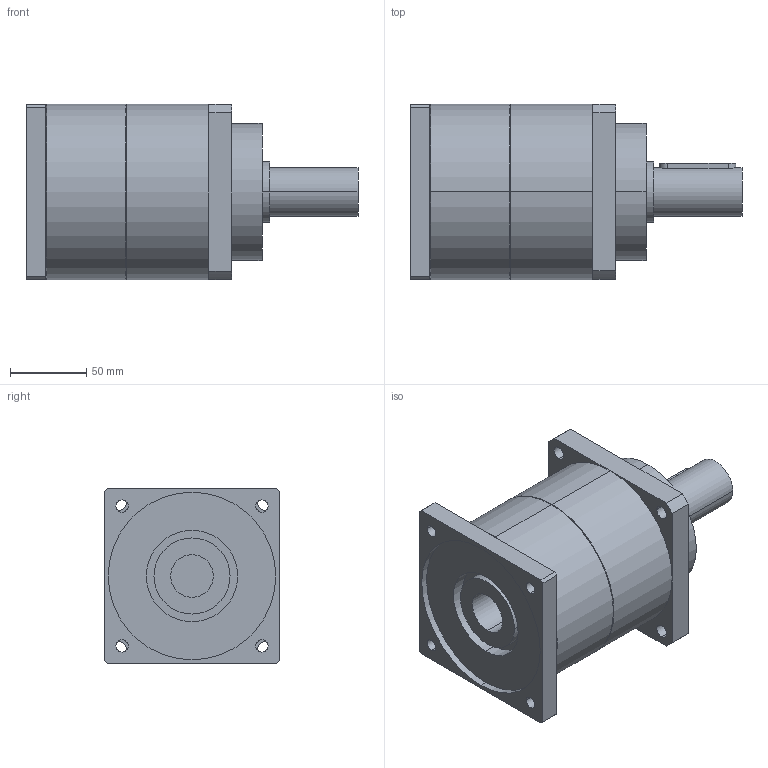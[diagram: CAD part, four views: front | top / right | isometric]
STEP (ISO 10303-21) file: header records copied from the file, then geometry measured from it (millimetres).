
FILE_DESCRIPTION(('CoCreate Modeling STEP Export'),'2;1');
FILE_NAME('GPT120_ig-3-4-5-7-10_32_B5A_28_P14.stp','2015-02-04T17:00:39',(''),(''),'CoCreate Modeling STEP processor for AP214 (Solid Model)','CoCreate Modeling 16.00C 25-Feb-2009 (C) Parametric Technology GmbH','');
FILE_SCHEMA(('AUTOMOTIVE_DESIGN { 1 0 10303 214 1 1 1 1 }'));
Length unit declared in the file: millimetre
Products named in the file (2): GPT120_ig-3-4-5-7-10_32_B5A_28_P14
Assembly tree (1 placements, depth 2):
  GPT120_ig-3-4-5-7-10_32_B5A_28_P14
    GPT120_ig-3-4-5-7-10_32_B5A_28_P14
Bounding box: 218 x 115 x 115 mm (x, y, z)
Volume: 1565667.3 mm3; surface area: 108483.4 mm2
Topology: 1 solids, 1 shells, 77 faces, 204 edges, 139 vertices
Faces by surface type: cylinder 46, plane 27, cone 4
Entity records: 2568 total; most frequent: CARTESIAN_POINT 759, ORIENTED_EDGE 408, DIRECTION 320, EDGE_CURVE 204, VERTEX_POINT 139, AXIS2_PLACEMENT_3D 118, EDGE_LOOP 103, VECTOR 84
